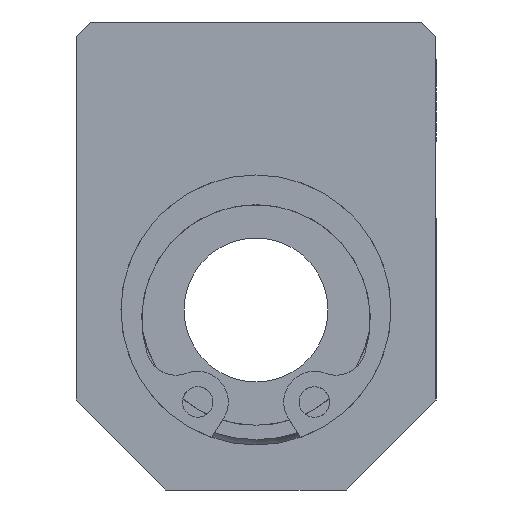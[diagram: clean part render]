
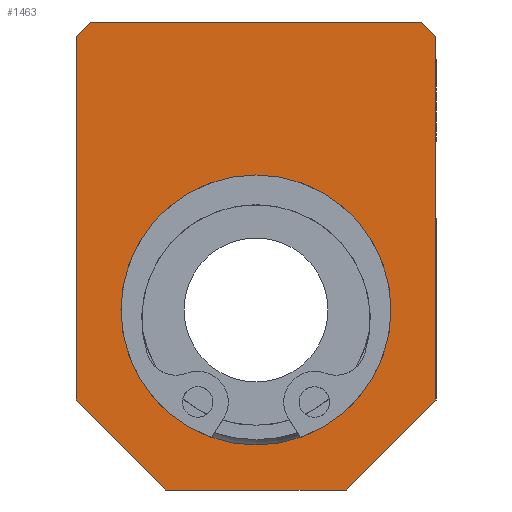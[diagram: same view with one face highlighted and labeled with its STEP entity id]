
A CAD part, left-side view. The second image highlights one B-rep face of the part: STEP entity #1463.
In plain terms, the highlighted planar face has unit normal (-1, 0, 0).
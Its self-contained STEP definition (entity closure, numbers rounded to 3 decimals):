
#1365=CARTESIAN_POINT('',(0.0,-9.2,16.0));
#1366=VERTEX_POINT('',#1365);
#1373=CARTESIAN_POINT('',(0.0,-10.,15.2));
#1374=VERTEX_POINT('',#1373);
#1375=CARTESIAN_POINT('',(0.0,-9.2,16.0));
#1376=DIRECTION('',(0.0,-0.707,-0.707));
#1377=VECTOR('',#1376,1.131);
#1378=LINE('',#1375,#1377);
#1379=EDGE_CURVE('',#1366,#1374,#1378,.T.);
#1390=CARTESIAN_POINT('',(0.0,0.,3.));
#1391=DIRECTION('',(1.0,0.0,0.0));
#1392=DIRECTION('',(0.0,0.0,-1.0));
#1393=AXIS2_PLACEMENT_3D('',#1390,#1391,#1392);
#1394=PLANE('',#1393);
#1395=ORIENTED_EDGE('',*,*,#1379,.F.);
#1396=CARTESIAN_POINT('',(0.0,9.2,16.0));
#1397=VERTEX_POINT('',#1396);
#1398=CARTESIAN_POINT('',(0.0,-9.2,16.0));
#1399=DIRECTION('',(0.0,1.0,0.0));
#1400=VECTOR('',#1399,18.4);
#1401=LINE('',#1398,#1400);
#1402=EDGE_CURVE('',#1366,#1397,#1401,.T.);
#1403=ORIENTED_EDGE('',*,*,#1402,.T.);
#1404=CARTESIAN_POINT('',(0.0,10.,15.2));
#1405=VERTEX_POINT('',#1404);
#1406=CARTESIAN_POINT('',(0.0,10.,15.2));
#1407=DIRECTION('',(0.0,-0.707,0.707));
#1408=VECTOR('',#1407,1.131);
#1409=LINE('',#1406,#1408);
#1410=EDGE_CURVE('',#1405,#1397,#1409,.T.);
#1411=ORIENTED_EDGE('',*,*,#1410,.F.);
#1412=CARTESIAN_POINT('',(0.0,10.0,-5.));
#1413=VERTEX_POINT('',#1412);
#1414=CARTESIAN_POINT('',(0.0,10.,15.2));
#1415=DIRECTION('',(0.0,0.0,-1.0));
#1416=VECTOR('',#1415,20.2);
#1417=LINE('',#1414,#1416);
#1418=EDGE_CURVE('',#1405,#1413,#1417,.T.);
#1419=ORIENTED_EDGE('',*,*,#1418,.T.);
#1420=CARTESIAN_POINT('',(0.0,5.,-10.));
#1421=VERTEX_POINT('',#1420);
#1422=CARTESIAN_POINT('',(0.0,5.,-10.));
#1423=DIRECTION('',(0.0,0.707,0.707));
#1424=VECTOR('',#1423,7.071);
#1425=LINE('',#1422,#1424);
#1426=EDGE_CURVE('',#1421,#1413,#1425,.T.);
#1427=ORIENTED_EDGE('',*,*,#1426,.F.);
#1428=CARTESIAN_POINT('',(0.0,-5.,-10.));
#1429=VERTEX_POINT('',#1428);
#1430=CARTESIAN_POINT('',(0.0,5.,-10.));
#1431=DIRECTION('',(0.0,-1.0,0.0));
#1432=VECTOR('',#1431,10.);
#1433=LINE('',#1430,#1432);
#1434=EDGE_CURVE('',#1421,#1429,#1433,.T.);
#1435=ORIENTED_EDGE('',*,*,#1434,.T.);
#1436=CARTESIAN_POINT('',(0.0,-10.0,-5.));
#1437=VERTEX_POINT('',#1436);
#1438=CARTESIAN_POINT('',(0.0,-10.0,-5.));
#1439=DIRECTION('',(0.0,0.707,-0.707));
#1440=VECTOR('',#1439,7.071);
#1441=LINE('',#1438,#1440);
#1442=EDGE_CURVE('',#1437,#1429,#1441,.T.);
#1443=ORIENTED_EDGE('',*,*,#1442,.F.);
#1444=CARTESIAN_POINT('',(0.0,-10.0,-5.));
#1445=DIRECTION('',(0.0,0.0,1.0));
#1446=VECTOR('',#1445,20.2);
#1447=LINE('',#1444,#1446);
#1448=EDGE_CURVE('',#1437,#1374,#1447,.T.);
#1449=ORIENTED_EDGE('',*,*,#1448,.T.);
#1450=EDGE_LOOP('',(#1395,#1403,#1411,#1419,#1427,#1435,#1443,#1449));
#1451=FACE_OUTER_BOUND('',#1450,.T.);
#1452=CARTESIAN_POINT('',(0.0,7.5,0.));
#1453=VERTEX_POINT('',#1452);
#1454=CARTESIAN_POINT('',(0.0,0.0,0.0));
#1455=DIRECTION('',(1.0,0.0,0.0));
#1456=DIRECTION('',(0.0,-1.0,0.0));
#1457=AXIS2_PLACEMENT_3D('',#1454,#1455,#1456);
#1458=CIRCLE('',#1457,7.5);
#1459=EDGE_CURVE('',#1453,#1453,#1458,.T.);
#1460=ORIENTED_EDGE('',*,*,#1459,.T.);
#1461=EDGE_LOOP('',(#1460));
#1462=FACE_BOUND('',#1461,.T.);
#1463=ADVANCED_FACE('',(#1451,#1462),#1394,.F.);
